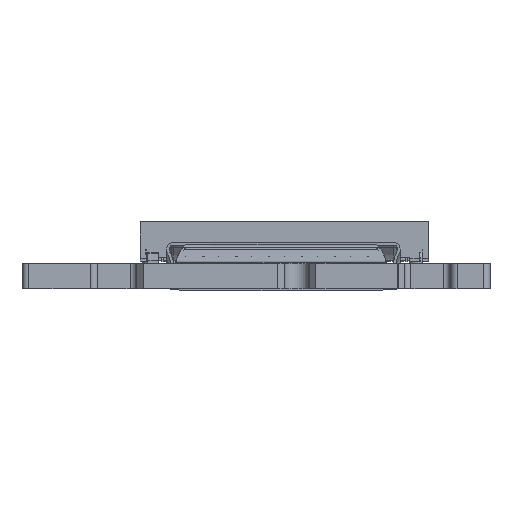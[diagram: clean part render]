
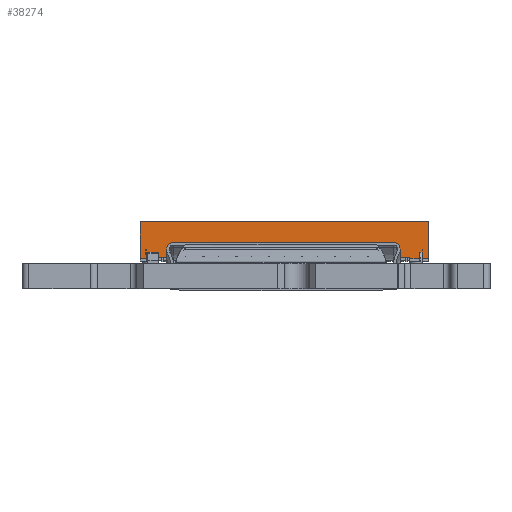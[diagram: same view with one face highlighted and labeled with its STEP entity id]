
A CAD part, front view. The second image highlights one B-rep face of the part: STEP entity #38274.
In plain terms, the highlighted free-form (B-spline) face has degree [1, 1] with [2, 2] control points.
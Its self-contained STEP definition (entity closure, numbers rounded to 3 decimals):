
#34153 = VERTEX_POINT('',#34154);
#34154 = CARTESIAN_POINT('',(-3.784,-0.828,
    -10.25));
#34161 = VERTEX_POINT('',#34162);
#34162 = CARTESIAN_POINT('',(-3.784,-0.828,
    -10.45));
#34167 = EDGE_CURVE('',#34153,#34161,#34168,.T.);
#34168 = B_SPLINE_CURVE_WITH_KNOTS('',1,(#34169,#34170),.UNSPECIFIED.,
  .F.,.F.,(2,2),(0.,1.),.PIECEWISE_BEZIER_KNOTS.);
#34169 = CARTESIAN_POINT('',(-3.784,-0.828,-10.25));
#34170 = CARTESIAN_POINT('',(-3.784,-0.828,-10.45));
#34269 = VERTEX_POINT('',#34270);
#34270 = CARTESIAN_POINT('',(-3.784,-1.327,-10.925));
#34275 = EDGE_CURVE('',#34269,#34276,#34278,.T.);
#34276 = VERTEX_POINT('',#34277);
#34277 = CARTESIAN_POINT('',(-3.784,1.473,-10.925));
#34278 = B_SPLINE_CURVE_WITH_KNOTS('',1,(#34279,#34280),.UNSPECIFIED.,
  .F.,.F.,(2,2),(0.,1.),.PIECEWISE_BEZIER_KNOTS.);
#34279 = CARTESIAN_POINT('',(-3.784,-1.327,-10.925));
#34280 = CARTESIAN_POINT('',(-3.784,1.473,-10.925));
#34326 = EDGE_CURVE('',#34327,#34269,#34329,.T.);
#34327 = VERTEX_POINT('',#34328);
#34328 = CARTESIAN_POINT('',(-3.784,-1.327,
    -10.45));
#34329 = B_SPLINE_CURVE_WITH_KNOTS('',1,(#34330,#34331),.UNSPECIFIED.,
  .F.,.F.,(2,2),(0.,1.),.PIECEWISE_BEZIER_KNOTS.);
#34330 = CARTESIAN_POINT('',(-3.784,-1.327,-10.45));
#34331 = CARTESIAN_POINT('',(-3.784,-1.327,-10.925));
#34362 = EDGE_CURVE('',#34161,#34327,#34363,.T.);
#34363 = B_SPLINE_CURVE_WITH_KNOTS('',1,(#34364,#34365),.UNSPECIFIED.,
  .F.,.F.,(2,2),(0.,1.),.PIECEWISE_BEZIER_KNOTS.);
#34364 = CARTESIAN_POINT('',(-3.784,-0.828,-10.45));
#34365 = CARTESIAN_POINT('',(-3.784,-1.327,-10.45));
#34416 = VERTEX_POINT('',#34417);
#34417 = CARTESIAN_POINT('',(-3.784,-1.327,
    -10.25));
#34422 = EDGE_CURVE('',#34416,#34153,#34423,.T.);
#34423 = B_SPLINE_CURVE_WITH_KNOTS('',1,(#34424,#34425),.UNSPECIFIED.,
  .F.,.F.,(2,2),(0.,1.),.PIECEWISE_BEZIER_KNOTS.);
#34424 = CARTESIAN_POINT('',(-3.784,-1.327,-10.25));
#34425 = CARTESIAN_POINT('',(-3.784,-0.828,-10.25));
#38209 = VERTEX_POINT('',#38210);
#38210 = CARTESIAN_POINT('',(-3.784,1.473,10.925));
#38215 = EDGE_CURVE('',#34276,#38209,#38216,.T.);
#38216 = B_SPLINE_CURVE_WITH_KNOTS('',1,(#38217,#38218),.UNSPECIFIED.,
  .F.,.F.,(2,2),(0.,1.),.PIECEWISE_BEZIER_KNOTS.);
#38217 = CARTESIAN_POINT('',(-3.784,1.473,-10.925));
#38218 = CARTESIAN_POINT('',(-3.784,1.473,10.925));
#38274 = ADVANCED_FACE('',(#38275),#38351,.F.);
#38275 = FACE_BOUND('',#38276,.F.);
#38276 = EDGE_LOOP('',(#38277,#38286,#38293,#38300,#38307,#38314,#38321,
    #38328,#38333,#38334,#38335,#38336,#38337,#38338,#38339,#38346));
#38277 = ORIENTED_EDGE('',*,*,#38278,.T.);
#38278 = EDGE_CURVE('',#38279,#38281,#38283,.T.);
#38279 = VERTEX_POINT('',#38280);
#38280 = CARTESIAN_POINT('',(-3.784,-1.327,
    10.45));
#38281 = VERTEX_POINT('',#38282);
#38282 = CARTESIAN_POINT('',(-3.784,-0.828,
    10.45));
#38283 = B_SPLINE_CURVE_WITH_KNOTS('',1,(#38284,#38285),.UNSPECIFIED.,
  .F.,.F.,(2,2),(0.,1.),.PIECEWISE_BEZIER_KNOTS.);
#38284 = CARTESIAN_POINT('',(-3.784,-1.327,10.45));
#38285 = CARTESIAN_POINT('',(-3.784,-0.828,10.45));
#38286 = ORIENTED_EDGE('',*,*,#38287,.F.);
#38287 = EDGE_CURVE('',#38288,#38281,#38290,.T.);
#38288 = VERTEX_POINT('',#38289);
#38289 = CARTESIAN_POINT('',(-3.784,-0.828,
    10.25));
#38290 = B_SPLINE_CURVE_WITH_KNOTS('',1,(#38291,#38292),.UNSPECIFIED.,
  .F.,.F.,(2,2),(0.,1.),.PIECEWISE_BEZIER_KNOTS.);
#38291 = CARTESIAN_POINT('',(-3.784,-0.828,10.25)
  );
#38292 = CARTESIAN_POINT('',(-3.784,-0.828,10.45));
#38293 = ORIENTED_EDGE('',*,*,#38294,.T.);
#38294 = EDGE_CURVE('',#38288,#38295,#38297,.T.);
#38295 = VERTEX_POINT('',#38296);
#38296 = CARTESIAN_POINT('',(-3.784,-1.327,
    10.25));
#38297 = B_SPLINE_CURVE_WITH_KNOTS('',1,(#38298,#38299),.UNSPECIFIED.,
  .F.,.F.,(2,2),(0.,1.),.PIECEWISE_BEZIER_KNOTS.);
#38298 = CARTESIAN_POINT('',(-3.784,-0.828,10.25));
#38299 = CARTESIAN_POINT('',(-3.784,-1.327,10.25));
#38300 = ORIENTED_EDGE('',*,*,#38301,.T.);
#38301 = EDGE_CURVE('',#38295,#38302,#38304,.T.);
#38302 = VERTEX_POINT('',#38303);
#38303 = CARTESIAN_POINT('',(-3.784,-1.327,9.525
    ));
#38304 = B_SPLINE_CURVE_WITH_KNOTS('',1,(#38305,#38306),.UNSPECIFIED.,
  .F.,.F.,(2,2),(0.,1.),.PIECEWISE_BEZIER_KNOTS.);
#38305 = CARTESIAN_POINT('',(-3.784,-1.327,10.25));
#38306 = CARTESIAN_POINT('',(-3.784,-1.327,9.525));
#38307 = ORIENTED_EDGE('',*,*,#38308,.T.);
#38308 = EDGE_CURVE('',#38302,#38309,#38311,.T.);
#38309 = VERTEX_POINT('',#38310);
#38310 = CARTESIAN_POINT('',(-3.784,-1.227,9.525
    ));
#38311 = B_SPLINE_CURVE_WITH_KNOTS('',1,(#38312,#38313),.UNSPECIFIED.,
  .F.,.F.,(2,2),(0.,1.),.PIECEWISE_BEZIER_KNOTS.);
#38312 = CARTESIAN_POINT('',(-3.784,-1.327,9.525));
#38313 = CARTESIAN_POINT('',(-3.784,-1.227,9.525));
#38314 = ORIENTED_EDGE('',*,*,#38315,.F.);
#38315 = EDGE_CURVE('',#38316,#38309,#38318,.T.);
#38316 = VERTEX_POINT('',#38317);
#38317 = CARTESIAN_POINT('',(-3.784,-1.227,
    -9.575));
#38318 = B_SPLINE_CURVE_WITH_KNOTS('',1,(#38319,#38320),.UNSPECIFIED.,
  .F.,.F.,(2,2),(0.,1.),.PIECEWISE_BEZIER_KNOTS.);
#38319 = CARTESIAN_POINT('',(-3.784,-1.227,-9.575)
  );
#38320 = CARTESIAN_POINT('',(-3.784,-1.227,9.525));
#38321 = ORIENTED_EDGE('',*,*,#38322,.T.);
#38322 = EDGE_CURVE('',#38316,#38323,#38325,.T.);
#38323 = VERTEX_POINT('',#38324);
#38324 = CARTESIAN_POINT('',(-3.784,-1.327,-9.575)
  );
#38325 = B_SPLINE_CURVE_WITH_KNOTS('',1,(#38326,#38327),.UNSPECIFIED.,
  .F.,.F.,(2,2),(0.,1.),.PIECEWISE_BEZIER_KNOTS.);
#38326 = CARTESIAN_POINT('',(-3.784,-1.227,-9.575));
#38327 = CARTESIAN_POINT('',(-3.784,-1.327,-9.575));
#38328 = ORIENTED_EDGE('',*,*,#38329,.F.);
#38329 = EDGE_CURVE('',#34416,#38323,#38330,.T.);
#38330 = B_SPLINE_CURVE_WITH_KNOTS('',1,(#38331,#38332),.UNSPECIFIED.,
  .F.,.F.,(2,2),(0.,1.),.PIECEWISE_BEZIER_KNOTS.);
#38331 = CARTESIAN_POINT('',(-3.784,-1.327,-10.25)
  );
#38332 = CARTESIAN_POINT('',(-3.784,-1.327,-9.575));
#38333 = ORIENTED_EDGE('',*,*,#34422,.T.);
#38334 = ORIENTED_EDGE('',*,*,#34167,.T.);
#38335 = ORIENTED_EDGE('',*,*,#34362,.T.);
#38336 = ORIENTED_EDGE('',*,*,#34326,.T.);
#38337 = ORIENTED_EDGE('',*,*,#34275,.T.);
#38338 = ORIENTED_EDGE('',*,*,#38215,.T.);
#38339 = ORIENTED_EDGE('',*,*,#38340,.F.);
#38340 = EDGE_CURVE('',#38341,#38209,#38343,.T.);
#38341 = VERTEX_POINT('',#38342);
#38342 = CARTESIAN_POINT('',(-3.784,-1.327,10.925));
#38343 = B_SPLINE_CURVE_WITH_KNOTS('',1,(#38344,#38345),.UNSPECIFIED.,
  .F.,.F.,(2,2),(0.,1.),.PIECEWISE_BEZIER_KNOTS.);
#38344 = CARTESIAN_POINT('',(-3.784,-1.327,10.925));
#38345 = CARTESIAN_POINT('',(-3.784,1.473,10.925));
#38346 = ORIENTED_EDGE('',*,*,#38347,.T.);
#38347 = EDGE_CURVE('',#38341,#38279,#38348,.T.);
#38348 = B_SPLINE_CURVE_WITH_KNOTS('',1,(#38349,#38350),.UNSPECIFIED.,
  .F.,.F.,(2,2),(0.,1.),.PIECEWISE_BEZIER_KNOTS.);
#38349 = CARTESIAN_POINT('',(-3.784,-1.327,10.925));
#38350 = CARTESIAN_POINT('',(-3.784,-1.327,10.45));
#38351 = B_SPLINE_SURFACE_WITH_KNOTS('',1,1,(
    (#38352,#38353)
    ,(#38354,#38355
    )),.UNSPECIFIED.,.F.,.F.,.F.,(2,2),(2,2),(0.,1.),(0.,1.),
  .PIECEWISE_BEZIER_KNOTS.);
#38352 = CARTESIAN_POINT('',(-3.784,-1.327,10.925));
#38353 = CARTESIAN_POINT('',(-3.784,1.473,10.925));
#38354 = CARTESIAN_POINT('',(-3.784,-1.327,-10.925));
#38355 = CARTESIAN_POINT('',(-3.784,1.473,-10.925));
